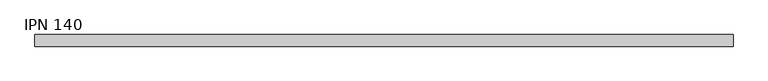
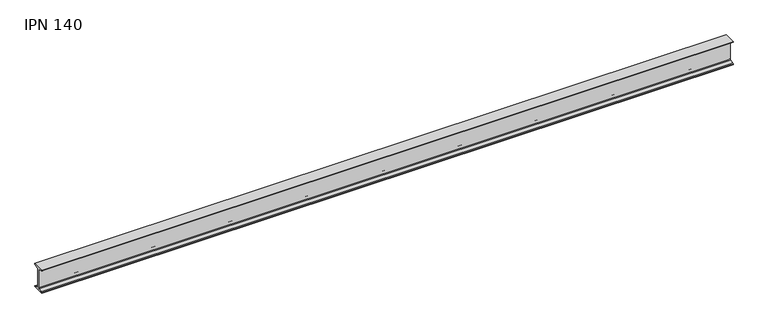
"""IFC4 building model written with IfcOpenShell, lengths in millimetres: beam geometry, IPN - Secciones en I con alas cónicas : IPN 140."""

from ifc_helpers import new_model, si_unit, point, frame, frame_2d, origin, place, context, project, spatial, polyline, circle_curve, trimmed, segment, composite_curve, outline, extrude, source, transform, mapped, element, save


def ipn_140_4a258899(model_context):
    return source(origin(), model_context, "Body", "SweptSolid", [
        extrude(outline(composite_curve([segment(polyline([(33.0, 70.0), (33.0, 66.6671583)]), True, "CONTINUOUS"), segment(trimmed(circle_curve(frame_2d((29.6, 66.6671583)), 3.4), [point((33.0, 66.6671583))], [point((30.0714027, 63.2999964))], False, "CARTESIAN"), True, "CONTINUOUS"), segment(polyline([(30.0714027, 63.2999964), (7.7597073, 60.176359)]), True, "CONTINUOUS"), segment(trimmed(circle_curve(frame_2d((8.55, 54.5314111)), 5.7), [point((7.7597073, 60.176359))], [point((2.85, 54.5314111))], True, "CARTESIAN"), True, "CONTINUOUS"), segment(polyline([(2.85, 54.5314111), (2.85, -54.5314111)]), True, "CONTINUOUS"), segment(trimmed(circle_curve(frame_2d((8.55, -54.5314111)), 5.7), [point((2.85, -54.5314111))], [point((7.7597073, -60.176359))], True, "CARTESIAN"), True, "CONTINUOUS"), segment(polyline([(7.7597073, -60.176359), (30.0714027, -63.2999964)]), True, "CONTINUOUS"), segment(trimmed(circle_curve(frame_2d((29.6, -66.6671583)), 3.4), [point((30.0714027, -63.2999964))], [point((33.0, -66.6671583))], False, "CARTESIAN"), True, "CONTINUOUS"), segment(polyline([(33.0, -66.6671583), (33.0, -70.0), (-33.0, -70.0), (-33.0, -66.6671583)]), True, "CONTINUOUS"), segment(trimmed(circle_curve(frame_2d((-29.6, -66.6671583)), 3.4), [point((-33.0, -66.6671583))], [point((-30.0714027, -63.2999964))], False, "CARTESIAN"), True, "CONTINUOUS"), segment(polyline([(-30.0714027, -63.2999964), (-7.7597073, -60.176359)]), True, "CONTINUOUS"), segment(trimmed(circle_curve(frame_2d((-8.55, -54.5314111)), 5.7), [point((-7.7597073, -60.176359))], [point((-2.85, -54.5314111))], True, "CARTESIAN"), True, "CONTINUOUS"), segment(polyline([(-2.85, -54.5314111), (-2.85, 54.5314111)]), True, "CONTINUOUS"), segment(trimmed(circle_curve(frame_2d((-8.55, 54.5314111)), 5.7), [point((-2.85, 54.5314111))], [point((-7.7597073, 60.176359))], True, "CARTESIAN"), True, "CONTINUOUS"), segment(polyline([(-7.7597073, 60.176359), (-30.0714027, 63.2999964)]), True, "CONTINUOUS"), segment(trimmed(circle_curve(frame_2d((-29.6, 66.6671583)), 3.4), [point((-30.0714027, 63.2999964))], [point((-33.0, 66.6671583))], False, "CARTESIAN"), True, "CONTINUOUS"), segment(polyline([(-33.0, 66.6671583), (-33.0, 70.0), (33.0, 70.0)]), True, "CONTINUOUS")], self_intersect=False)), frame((-1696.0, 0.0, 0.0), z_axis=(1.0, 0.0, 0.0), x_axis=(0.0, 1.0, 0.0)), (0.0, 0.0, 1.0), 3971.0),
    ])


if __name__ == "__main__":
    model = new_model("IFC4")
    model_context = context("Model", 3, world=origin())
    ifc_project = project(units=[si_unit("LENGTHUNIT", "METRE", prefix="MILLI")], contexts=[model_context])
    site = spatial("IfcSite", under=ifc_project)
    building = spatial("IfcBuilding", under=site)
    placement = place(None, origin())
    ipn_140_shape = ipn_140_4a258899(model_context)
    element("IfcBeam", 1, ObjectType="IPN - Secciones en I con alas cónicas : IPN 140", at=placement, inside=building, context=model_context, shape_type="MappedRepresentation", body=[
        mapped(ipn_140_shape, transform((0.0, 0.0, 0.0), x_axis=(1.0, 0.0, 0.0), y_axis=(0.0, 1.0, 0.0), z_axis=(0.0, 0.0, 1.0))),
    ])
    save(model, "model.ifc")
